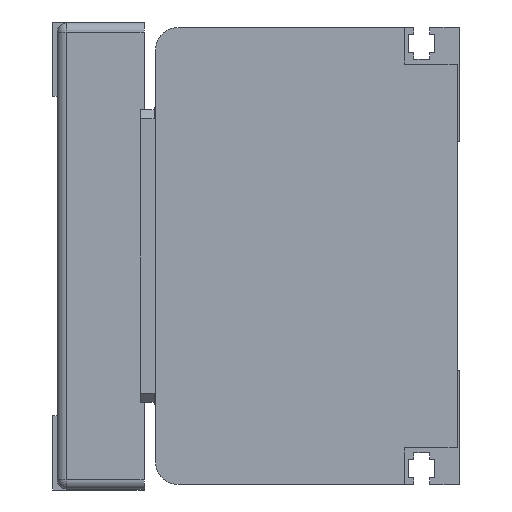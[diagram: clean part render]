
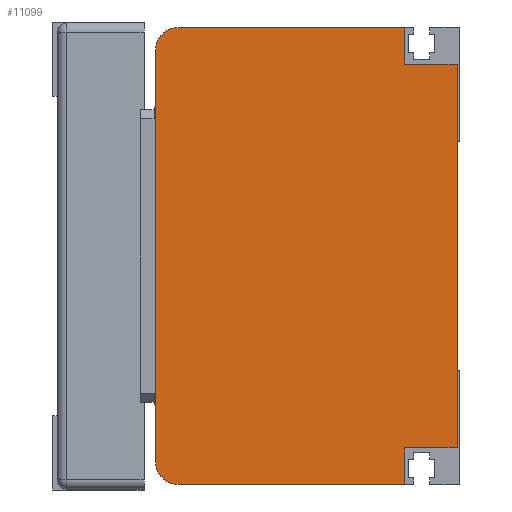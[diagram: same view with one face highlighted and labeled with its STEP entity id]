
A CAD part, left-side view. The second image highlights one B-rep face of the part: STEP entity #11099.
In plain terms, the highlighted planar face has unit normal (-1, 0, 0) as drawn and (0, 0, -1) by its records, which use the part's own axes.
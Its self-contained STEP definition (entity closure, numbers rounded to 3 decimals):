
#678=LINE('',#15476,#1735);
#679=LINE('',#15478,#1736);
#680=LINE('',#15480,#1737);
#681=LINE('',#15484,#1738);
#682=LINE('',#15488,#1739);
#683=LINE('',#15490,#1740);
#684=LINE('',#15492,#1741);
#685=LINE('',#15493,#1742);
#1735=VECTOR('',#12829,8.);
#1736=VECTOR('',#12830,8.);
#1737=VECTOR('',#12831,49.5);
#1738=VECTOR('',#12834,90.);
#1739=VECTOR('',#12837,49.5);
#1740=VECTOR('',#12838,8.);
#1741=VECTOR('',#12839,8.);
#1742=VECTOR('',#12840,98.);
#2749=PLANE('',#11858);
#3288=FACE_OUTER_BOUND('',#3965,.T.);
#3965=EDGE_LOOP('',(#7884,#7885,#7886,#7887,#7888,#7889,#7890,#7891,#7892,
#7893));
#4737=CIRCLE('',#11859,5.);
#4738=CIRCLE('',#11860,5.);
#5008=VERTEX_POINT('',#15474);
#5009=VERTEX_POINT('',#15475);
#5010=VERTEX_POINT('',#15477);
#5011=VERTEX_POINT('',#15479);
#5012=VERTEX_POINT('',#15481);
#5013=VERTEX_POINT('',#15483);
#5014=VERTEX_POINT('',#15485);
#5015=VERTEX_POINT('',#15487);
#5016=VERTEX_POINT('',#15489);
#5017=VERTEX_POINT('',#15491);
#6158=EDGE_CURVE('',#5008,#5009,#678,.T.);
#6159=EDGE_CURVE('',#5009,#5010,#679,.T.);
#6160=EDGE_CURVE('',#5010,#5011,#680,.T.);
#6161=EDGE_CURVE('',#5011,#5012,#4737,.T.);
#6162=EDGE_CURVE('',#5012,#5013,#681,.T.);
#6163=EDGE_CURVE('',#5013,#5014,#4738,.T.);
#6164=EDGE_CURVE('',#5014,#5015,#682,.T.);
#6165=EDGE_CURVE('',#5015,#5016,#683,.T.);
#6166=EDGE_CURVE('',#5016,#5017,#684,.T.);
#6167=EDGE_CURVE('',#5017,#5008,#685,.T.);
#7884=ORIENTED_EDGE('',*,*,#6158,.T.);
#7885=ORIENTED_EDGE('',*,*,#6159,.T.);
#7886=ORIENTED_EDGE('',*,*,#6160,.T.);
#7887=ORIENTED_EDGE('',*,*,#6161,.T.);
#7888=ORIENTED_EDGE('',*,*,#6162,.T.);
#7889=ORIENTED_EDGE('',*,*,#6163,.T.);
#7890=ORIENTED_EDGE('',*,*,#6164,.T.);
#7891=ORIENTED_EDGE('',*,*,#6165,.T.);
#7892=ORIENTED_EDGE('',*,*,#6166,.T.);
#7893=ORIENTED_EDGE('',*,*,#6167,.T.);
#11099=ADVANCED_FACE('',(#3288),#2749,.T.);
#11858=AXIS2_PLACEMENT_3D('',#15473,#12827,#12828);
#11859=AXIS2_PLACEMENT_3D('',#15482,#12832,#12833);
#11860=AXIS2_PLACEMENT_3D('',#15486,#12835,#12836);
#12827=DIRECTION('center_axis',(0.,0.,-1.));
#12828=DIRECTION('ref_axis',(-1.,0.,0.));
#12829=DIRECTION('',(0.,1.,0.));
#12830=DIRECTION('',(-1.,0.,0.));
#12831=DIRECTION('',(0.,1.,0.));
#12832=DIRECTION('center_axis',(0.,0.,-1.));
#12833=DIRECTION('ref_axis',(-1.,0.,0.));
#12834=DIRECTION('',(1.,0.,0.));
#12835=DIRECTION('center_axis',(0.,0.,-1.));
#12836=DIRECTION('ref_axis',(0.,1.,0.));
#12837=DIRECTION('',(0.,-1.,0.));
#12838=DIRECTION('',(-1.,0.,0.));
#12839=DIRECTION('',(0.,-1.,0.));
#12840=DIRECTION('',(-1.,0.,0.));
#15473=CARTESIAN_POINT('Origin',(0.,0.,-700.));
#15474=CARTESIAN_POINT('',(-9.,-8.,-700.));
#15475=CARTESIAN_POINT('',(-9.,3.5,-700.));
#15476=CARTESIAN_POINT('',(-9.,-4.5,-700.));
#15477=CARTESIAN_POINT('',(-17.,3.5,-700.));
#15478=CARTESIAN_POINT('',(-9.,3.5,-700.));
#15479=CARTESIAN_POINT('',(-17.,53.,-700.));
#15480=CARTESIAN_POINT('',(-17.,3.5,-700.));
#15481=CARTESIAN_POINT('',(-12.,58.,-700.));
#15482=CARTESIAN_POINT('Origin',(-12.,53.,-700.));
#15483=CARTESIAN_POINT('',(78.,58.,-700.));
#15484=CARTESIAN_POINT('',(-12.,58.,-700.));
#15485=CARTESIAN_POINT('',(83.,53.,-700.));
#15486=CARTESIAN_POINT('Origin',(78.,53.,-700.));
#15487=CARTESIAN_POINT('',(83.,3.5,-700.));
#15488=CARTESIAN_POINT('',(83.,53.,-700.));
#15489=CARTESIAN_POINT('',(75.,3.5,-700.));
#15490=CARTESIAN_POINT('',(83.,3.5,-700.));
#15491=CARTESIAN_POINT('',(75.,-8.,-700.));
#15492=CARTESIAN_POINT('',(75.,3.5,-700.));
#15493=CARTESIAN_POINT('',(82.,-8.,-700.));
